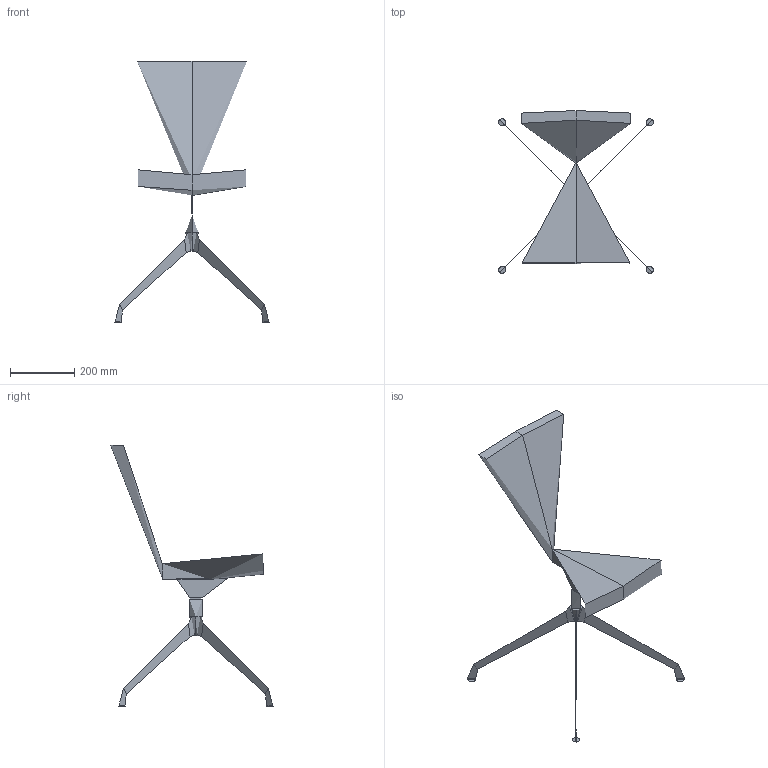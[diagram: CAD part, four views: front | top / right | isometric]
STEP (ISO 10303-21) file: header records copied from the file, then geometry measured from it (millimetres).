
FILE_DESCRIPTION(/* description */ (''),/* implementation_level */ '2;1');
FILE_NAME(/* name */ 'FLEXIC~2',/* time_stamp */ '2015-11-12T15:27:29+01:00',/* author */ (''),/* organization */ (''),/* preprocessor_version */ 'ST-DEVELOPER v15',/* originating_system */ '',/* authorisation */ '');
FILE_SCHEMA (('CONFIG_CONTROL_DESIGN'));
Length unit declared in the file: millimetre
Products named in the file (1): Document
Bounding box: 482.01 x 506.01 x 815.04 mm (x, y, z)
Volume: 15652548.3 mm3; surface area: 971699.1 mm2
Topology: 1 solids, 6 shells, 70 faces, 164 edges, 88 vertices
Faces by surface type: bspline 64, plane 6
Entity records: 14442 total; most frequent: CARTESIAN_POINT 13416, ORIENTED_EDGE 276, EDGE_CURVE 147, B_SPLINE_CURVE_WITH_KNOTS 110, VERTEX_POINT 86, EDGE_LOOP 76, ADVANCED_FACE 70, FACE_OUTER_BOUND 70
